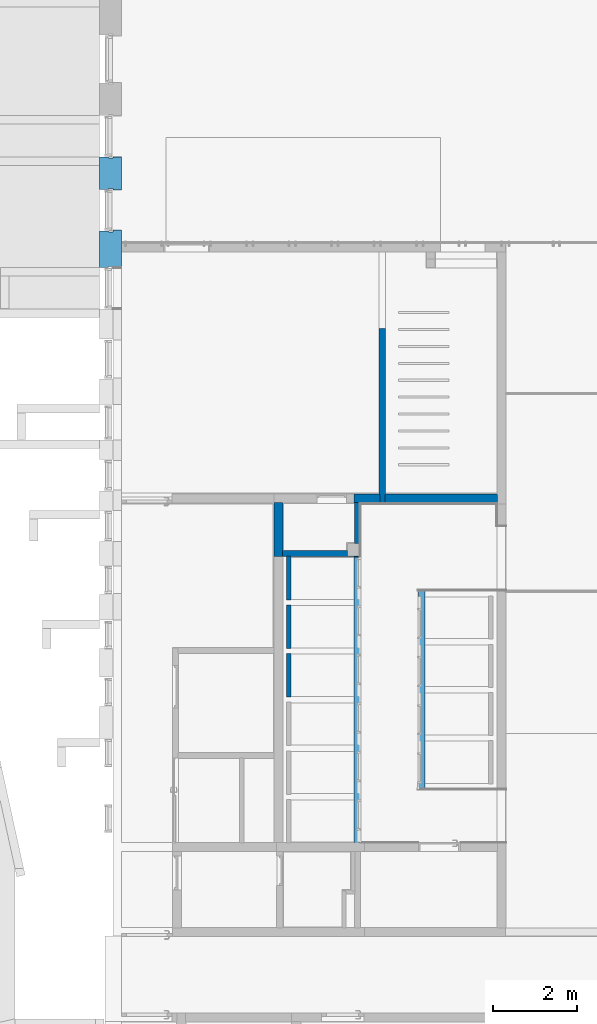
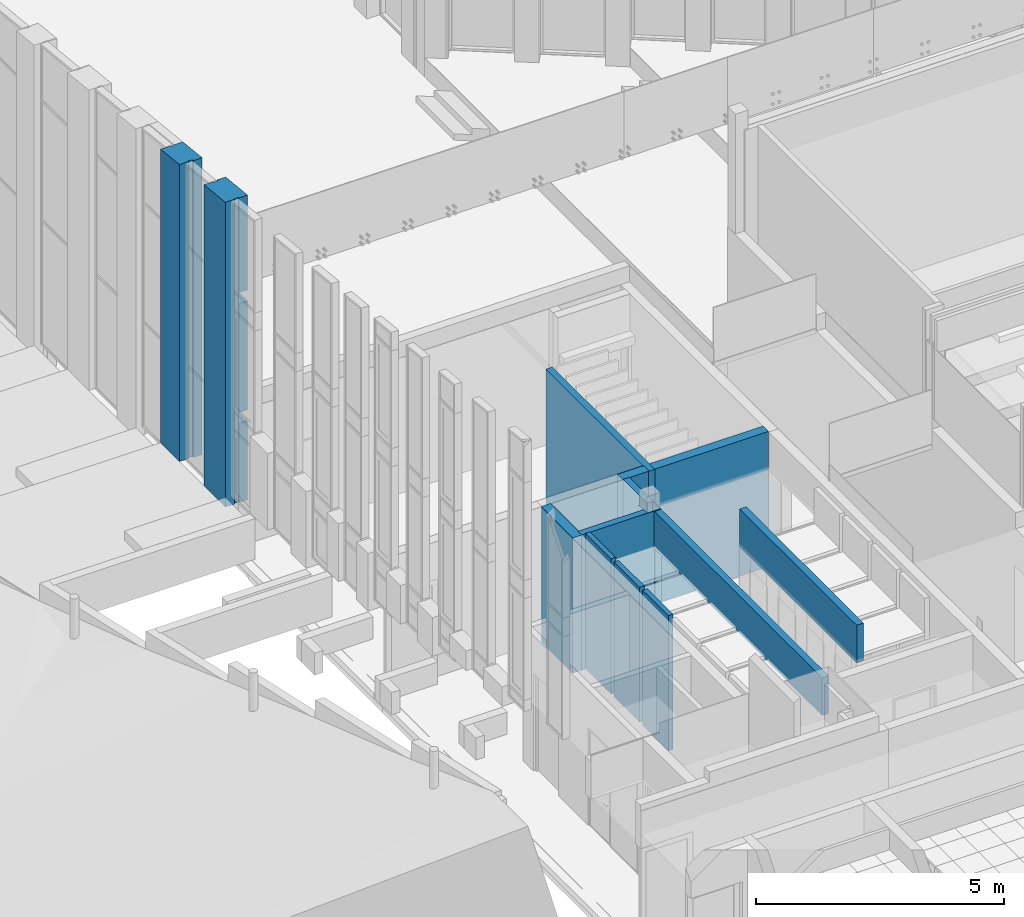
# One storey, part 119 of 246: 11 walls, 1 opening.
"""IFC2X3 building model written with IfcOpenShell, lengths in millimetres."""

from ifc_helpers import new_model, entity, si_unit, converted_unit, derived_unit, money_unit, direction, frame, origin_with_axes, place, context, subcontext, project, spatial, faceted_brep, material, material_list, type_object, element, save


model = new_model("IFC2X3")

# Units and contexts
model_context = context("Model", 3, precision=0.01, world=origin_with_axes(), true_north=direction((0.0, 1.0)))
body_context = subcontext(model_context, "Body", "Model", "MODEL_VIEW")
ifc_project = project(units=[si_unit("LENGTHUNIT", "METRE", prefix="MILLI"), si_unit("AREAUNIT", "SQUARE_METRE"), si_unit("VOLUMEUNIT", "CUBIC_METRE"), converted_unit("PLANEANGLEUNIT", "DEGREE", entity("IfcPlaneAngleMeasure", 0.0174532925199), si_unit("PLANEANGLEUNIT", "RADIAN"), dimensions=[0, 0, 0, 0, 0, 0, 0]), si_unit("SOLIDANGLEUNIT", "STERADIAN"), money_unit("EUR"), converted_unit("TIMEUNIT", "Year", entity("IfcTimeMeasure", 31556926.0), si_unit("TIMEUNIT", "SECOND"), dimensions=[0, 0, 1, 0, 0, 0, 0]), si_unit("MASSUNIT", "GRAM", prefix="KILO"), si_unit("THERMODYNAMICTEMPERATUREUNIT", "DEGREE_CELSIUS"), si_unit("LUMINOUSINTENSITYUNIT", "LUMEN"), si_unit("ENERGYUNIT", "JOULE", prefix="MEGA"), derived_unit("THERMALCONDUCTANCEUNIT", [(si_unit("POWERUNIT", "WATT"), 1), (si_unit("LENGTHUNIT", "METRE"), -1), (si_unit("THERMODYNAMICTEMPERATUREUNIT", "KELVIN"), -1)]), derived_unit("SPECIFICHEATCAPACITYUNIT", [(si_unit("ENERGYUNIT", "JOULE"), 1), (si_unit("MASSUNIT", "GRAM", prefix="KILO"), -1), (si_unit("THERMODYNAMICTEMPERATUREUNIT", "KELVIN"), -1)]), derived_unit("MASSDENSITYUNIT", [(si_unit("MASSUNIT", "GRAM", prefix="KILO"), 1), (si_unit("VOLUMEUNIT", "CUBIC_METRE"), -1)])], contexts=[model_context])

# Site, building, storey
site_placement = place(None, origin_with_axes())
site = spatial("IfcSite", under=ifc_project, at=site_placement, Name="L.Koidula tn 11b", CompositionType="ELEMENT")
building_placement = place(site_placement, origin_with_axes())
building = spatial("IfcBuilding", under=site, at=building_placement, Name="Rakvere Riigigümnaasium", CompositionType="ELEMENT")
storey_placement = place(building_placement, origin_with_axes())
storey = spatial("IfcBuildingStorey", under=building, at=storey_placement, Name="1.korrus 0,00", CompositionType="ELEMENT", Elevation=0.0)

# Walls
ifc_material_1 = material(Name="Kipsplaat")
ifc_material_2 = material(Name="mineraalvill+karkass")
ifc_material_list_1 = material_list([ifc_material_1, ifc_material_1, ifc_material_2, ifc_material_1, ifc_material_1])
wall_type_1 = type_object("IfcWallType", Name="SS-07 155", PredefinedType="NOTDEFINED")
wall_1_placement = place(storey_placement, frame((41128.0073165, 17110.4555123, 2400.0), z_axis=(0.0, 0.0, 1.0), x_axis=(0.0, 1.0, 0.0)))
element("IfcWall", 1, at=wall_1_placement, inside=storey, type_object=wall_type_1, material=ifc_material_list_1, Name="Sisesein", context=body_context, shape_type="Brep", body=[
    faceted_brep([(6990.00003493, 110.0, 0.0), (6990.00003493, 110.0, 925.0), (210.0, 110.0, 925.0), (210.0, 110.0, 0.0), (6990.00003493, 125.0, 925.0), (6990.00003493, 125.0, 0.0), (210.0, 125.0, 925.0), (210.0, 125.0, 0.0)], [[[0, 1, 2, 3]], [[4, 1, 0, 5]], [[1, 4, 6, 2]], [[3, 2, 6, 7]], [[5, 0, 3, 7]], [[4, 5, 7, 6]]]),
    faceted_brep([(6990.00003493, 95.0, 0.0), (6990.00003493, 95.0, 925.0), (210.0, 95.0, 925.0), (210.0, 95.0, 0.0), (6990.00003493, 110.0, 925.0), (6990.00003493, 110.0, 0.0), (210.0, 110.0, 925.0), (210.0, 110.0, 0.0)], [[[0, 1, 2, 3]], [[4, 1, 0, 5]], [[1, 4, 6, 2]], [[3, 2, 6, 7]], [[5, 0, 3, 7]], [[4, 5, 7, 6]]]),
    faceted_brep([(6990.00003493, 0.0, 0.0), (6990.00003493, 0.0, 925.0), (200.0, 0.0, 925.0), (200.0, 0.0, 0.0), (6990.00003493, 95.0, 925.0), (6990.00003493, 95.0, 0.0), (200.0, 95.0, 925.0), (200.0, 95.0, 0.0)], [[[0, 1, 2, 3]], [[4, 1, 0, 5]], [[1, 4, 6, 2]], [[3, 2, 6, 7]], [[5, 0, 3, 7]], [[4, 5, 7, 6]]]),
    faceted_brep([(6990.00003493, -15.0, 0.0), (6990.00003493, -15.0, 925.0), (210.0, -15.0, 925.0), (210.0, -15.0, 0.0), (6990.00003493, 0.0, 925.0), (6990.00003493, 0.0, 0.0), (210.0, 0.0, 925.0), (210.0, 0.0, 0.0)], [[[0, 1, 2, 3]], [[4, 1, 0, 5]], [[1, 4, 6, 2]], [[3, 2, 6, 7]], [[5, 0, 3, 7]], [[4, 5, 7, 6]]]),
    faceted_brep([(7080.00003493, -21.9936656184, 0.0), (7080.00003493, -21.9936656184, 925.0), (7080.00003493, -30.0, 925.0), (7080.00003493, -30.0, 0.0), (6990.00003493, -21.9936656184, 925.0), (6990.00003493, -21.9936656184, 0.0), (6990.00003493, -15.0, 925.0), (210.0, -15.0, 925.0), (210.0, -30.0, 925.0), (210.0, -30.0, 0.0), (210.0, -15.0, 0.0), (6990.00003493, -15.0, 0.0)], [[[0, 1, 2, 3]], [[4, 1, 0, 5]], [[4, 6, 7, 8, 2, 1]], [[3, 2, 8, 9]], [[5, 0, 3, 9, 10, 11]], [[6, 4, 5, 11]], [[6, 11, 10, 7]], [[9, 8, 7, 10]]]),
])
wall_2_placement = place(storey_placement, frame((42686.9999626, 18570.4555123, 2400.0), z_axis=(0.0, 0.0, 1.0), x_axis=(0.0, 1.0, 0.0)))
element("IfcWall", 2, at=wall_2_placement, inside=storey, type_object=wall_type_1, material=ifc_material_list_1, Name="Sisesein", context=body_context, shape_type="Brep", body=[
    faceted_brep([(4720.01583998, 155.0, 925.0), (4720.01583998, 140.0, 925.0), (4720.01583998, 140.0, 0.0), (4720.01583998, 155.0, 0.0), (0.0, 140.0, 925.0), (0.0, 155.0, 925.0), (0.0, 140.0, 0.0), (0.0, 155.0, 0.0)], [[[0, 1, 2, 3]], [[4, 1, 0, 5]], [[1, 4, 6, 2]], [[7, 3, 2, 6]], [[5, 0, 3, 7]], [[4, 5, 7, 6]]]),
    faceted_brep([(4720.01583998, 140.0, 925.0), (4720.01583998, 125.0, 925.0), (4720.01583998, 125.0, 0.0), (4720.01583998, 140.0, 0.0), (0.0, 125.0, 925.0), (0.0, 140.0, 925.0), (0.0, 125.0, 0.0), (0.0, 140.0, 0.0)], [[[0, 1, 2, 3]], [[4, 1, 0, 5]], [[1, 4, 6, 2]], [[7, 3, 2, 6]], [[5, 0, 3, 7]], [[4, 5, 7, 6]]]),
    faceted_brep([(4720.01583998, 125.0, 925.0), (4720.01583998, 30.0, 925.0), (4720.01583998, 30.0, 0.0), (4720.01583998, 125.0, 0.0), (0.0, 30.0, 925.0), (0.0, 125.0, 925.0), (0.0, 30.0, 0.0), (0.0, 125.0, 0.0)], [[[0, 1, 2, 3]], [[4, 1, 0, 5]], [[1, 4, 6, 2]], [[7, 3, 2, 6]], [[5, 0, 3, 7]], [[4, 5, 7, 6]]]),
    faceted_brep([(4720.01583998, 30.0, 925.0), (4720.01583998, 15.0, 925.0), (4720.01583998, 15.0, 0.0), (4720.01583998, 30.0, 0.0), (0.0, 15.0, 925.0), (0.0, 30.0, 925.0), (0.0, 15.0, 0.0), (0.0, 30.0, 0.0)], [[[0, 1, 2, 3]], [[4, 1, 0, 5]], [[1, 4, 6, 2]], [[7, 3, 2, 6]], [[5, 0, 3, 7]], [[4, 5, 7, 6]]]),
    faceted_brep([(4720.01583998, 15.0, 925.0), (4720.01583998, 0.0, 925.0), (4720.01583998, 0.0, 0.0), (4720.01583998, 15.0, 0.0), (0.0, 0.0, 925.0), (0.0, 15.0, 925.0), (0.0, 0.0, 0.0), (0.0, 15.0, 0.0)], [[[0, 1, 2, 3]], [[4, 1, 0, 5]], [[1, 4, 6, 2]], [[7, 3, 2, 6]], [[5, 0, 3, 7]], [[4, 5, 7, 6]]]),
])
ifc_material_3 = material(Name="Krohv")
ifc_material_4 = material(Name="Silikaat plokk")
ifc_material_list_2 = material_list([ifc_material_3, ifc_material_4, ifc_material_3])
wall_type_2 = type_object("IfcWallType", Name="SS-10 220", PredefinedType="NOTDEFINED")
wall_3_placement = place(storey_placement, frame((44599.9999911, 25360.4516763, 0.0), z_axis=(0.0, 0.0, 1.0), x_axis=(-1.0, 0.0, 0.0)))
element("IfcWall", 3, at=wall_3_placement, inside=storey, type_object=wall_type_2, material=ifc_material_list_2, Name="Sisesein", context=body_context, shape_type="Brep", body=[
    faceted_brep([(3589.99267458, 0.0, 3325.0), (3584.99267458, 0.0, 3325.0), (3584.99267458, 0.0, 0.0), (3589.99267458, 0.0, 0.0), (3584.99267458, 10.0, 3325.0), (3589.99267458, 10.0, 3325.0), (3584.99267458, 10.0, 0.0), (3589.99267458, 10.0, 0.0)], [[[0, 1, 2, 3]], [[4, 1, 0, 5]], [[1, 4, 6, 2]], [[6, 7, 3, 2]], [[5, 0, 3, 7]], [[4, 5, 7, 6]]]),
    faceted_brep([(2844.99989365, 0.0, 3325.0), (210.0, 0.0, 3325.0), (210.0, 0.0, 0.0), (2844.99989365, 0.0, 0.0), (210.0, 10.0, 3325.0), (2844.99989365, 10.0, 3325.0), (210.0, 10.0, 0.0), (2844.99989365, 10.0, 0.0)], [[[0, 1, 2, 3]], [[4, 1, 0, 5]], [[1, 4, 6, 2]], [[7, 3, 2, 6]], [[5, 0, 3, 7]], [[4, 5, 7, 6]]]),
    faceted_brep([(3434.99267458, 0.0, 3325.0), (2994.99989365, 0.0, 3325.0), (2994.99989365, 0.0, 0.0), (3434.99267458, 0.0, 0.0), (2994.99989365, 10.0, 3325.0), (3434.99267458, 10.0, 3325.0), (2994.99989365, 10.0, 0.0), (3434.99267458, 10.0, 0.0)], [[[0, 1, 2, 3]], [[4, 1, 0, 5]], [[1, 4, 6, 2]], [[7, 3, 2, 6]], [[5, 0, 3, 7]], [[4, 5, 7, 6]]]),
    faceted_brep([(2859.99989365, -200.0, 3325.0), (200.0, -200.0, 3325.0), (200.0, -200.0, 0.0), (2859.99989365, -200.0, 0.0), (200.0, 0.0, 3325.0), (2859.99989365, 0.0, 3325.0), (200.0, 0.0, 0.0), (2859.99989365, 0.0, 0.0)], [[[0, 1, 2, 3]], [[4, 1, 0, 5]], [[1, 4, 6, 2]], [[7, 3, 2, 6]], [[5, 0, 3, 7]], [[4, 5, 7, 6]]]),
    faceted_brep([(3589.99267458, -200.0, 3325.0), (2979.99989365, -200.0, 3325.0), (2979.99989365, -200.0, 0.0), (3589.99267458, -200.0, 0.0), (2979.99989365, 0.0, 3325.0), (3589.99267458, 0.0, 3325.0), (2979.99989365, 0.0, 0.0), (3589.99267458, 0.0, 0.0)], [[[0, 1, 2, 3]], [[4, 1, 0, 5]], [[1, 4, 6, 2]], [[6, 7, 3, 2]], [[5, 0, 3, 7]], [[4, 5, 7, 6]]]),
    faceted_brep([(2844.99989365, -210.0, 3325.0), (210.0, -210.0, 3325.0), (210.0, -210.0, 0.0), (2844.99989365, -210.0, 0.0), (210.0, -200.0, 3325.0), (2844.99989365, -200.0, 3325.0), (210.0, -200.0, 0.0), (2844.99989365, -200.0, 0.0)], [[[0, 1, 2, 3]], [[4, 1, 0, 5]], [[1, 4, 6, 2]], [[7, 3, 2, 6]], [[5, 0, 3, 7]], [[4, 5, 7, 6]]]),
    faceted_brep([(3589.99267458, -210.0, 3325.0), (2994.99989365, -210.0, 3325.0), (2994.99989365, -210.0, 0.0), (3589.99267458, -210.0, 0.0), (2994.99989365, -200.0, 3325.0), (3589.99267458, -200.0, 3325.0), (2994.99989365, -200.0, 0.0), (3589.99267458, -200.0, 0.0)], [[[0, 1, 2, 3]], [[4, 1, 0, 5]], [[1, 4, 6, 2]], [[6, 7, 3, 2]], [[5, 0, 3, 7]], [[4, 5, 7, 6]]]),
])
wall_4_placement = place(storey_placement, frame((39320.0072856, 24085.4555472, 0.0), z_axis=(0.0, 0.0, 1.0), x_axis=(0.0, 1.0, 0.0)))
element("IfcWall", 4, at=wall_4_placement, inside=storey, type_object=wall_type_2, material=ifc_material_list_2, Name="Sisesein", context=body_context, shape_type="Brep", body=[
    faceted_brep([(1264.99612905, 210.0, 3325.0), (1264.99612905, 200.0, 3325.0), (1264.99612905, 200.0, 0.0), (1264.99612905, 210.0, 0.0), (0.0, 200.0, 3325.0), (0.0, 210.0, 3325.0), (0.0, 200.0, 0.0), (0.0, 210.0, 0.0)], [[[0, 1, 2, 3]], [[4, 1, 0, 5]], [[1, 4, 6, 2]], [[3, 2, 6, 7]], [[5, 0, 3, 7]], [[4, 5, 7, 6]]]),
    faceted_brep([(1274.99612905, 200.0, 3325.0), (1274.99612905, 0.0, 3325.0), (1274.99612905, 0.0, 0.0), (1274.99612905, 200.0, 0.0), (0.0, 0.0, 3325.0), (0.0, 200.0, 3325.0), (0.0, 0.0, 0.0), (0.0, 200.0, 0.0)], [[[0, 1, 2, 3]], [[4, 1, 0, 5]], [[1, 4, 6, 2]], [[3, 2, 6, 7]], [[5, 0, 3, 7]], [[4, 5, 7, 6]]]),
    faceted_brep([(1264.99612905, 0.0, 3325.0), (1264.99612905, -10.0, 3325.0), (1264.99612905, -10.0, 0.0), (1264.99612905, 0.0, 0.0), (150.0, -10.0, 3325.0), (150.0, 0.0, 3325.0), (150.0, -10.0, 0.0), (150.0, 0.0, 0.0)], [[[0, 1, 2, 3]], [[4, 1, 0, 5]], [[1, 4, 6, 2]], [[3, 2, 6, 7]], [[5, 0, 3, 7]], [[4, 5, 7, 6]]]),
])
ifc_material_5 = material(Name="Keraamiline plaat")
ifc_material_list_3 = material_list([ifc_material_5, ifc_material_4, ifc_material_5])
wall_type_3 = type_object("IfcWallType", Name="SS-05-1 150", PredefinedType="NOTDEFINED")
wall_5_placement = place(storey_placement, frame((41150.0073165, 24220.4555472, 0.0), z_axis=(0.0, 0.0, 1.0), x_axis=(-1.0, 0.0, 0.0)))
element("IfcWall", 5, at=wall_5_placement, inside=storey, type_object=wall_type_3, material=ifc_material_list_3, Name="Sisesein", context=body_context, shape_type="Brep", body=[
    faceted_brep([(1645.00728061, 120.0, 0.0), (1645.00728061, 120.0, 3325.0), (135.0, 120.0, 3325.0), (135.0, 120.0, 0.0), (1645.00728061, 135.0, 0.0), (1645.00728061, 135.0, 3325.0), (135.0, 135.0, 3325.0), (135.0, 135.0, 0.0)], [[[0, 1, 2, 3]], [[4, 5, 1, 0]], [[5, 6, 2, 1]], [[3, 2, 6, 7]], [[7, 4, 0, 3]], [[7, 6, 5, 4]]]),
    faceted_brep([(1830.00003091, 120.0, 3325.0), (1736.50728061, 120.0, 3325.0), (1736.50728061, 120.0, 0.0), (1830.00003091, 120.0, 0.0), (1736.50728061, 135.0, 3325.0), (1830.00003091, 135.0, 3325.0), (1736.50728061, 135.0, 0.0), (1830.00003091, 135.0, 0.0)], [[[0, 1, 2, 3]], [[4, 1, 0, 5]], [[1, 4, 6, 2]], [[7, 3, 2, 6]], [[5, 0, 3, 7]], [[4, 5, 7, 6]]]),
    faceted_brep([(300.006334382, 120.0, 3325.0), (300.006334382, 0.0, 3325.0), (1830.00003091, 0.0, 3325.0), (1830.00003091, 120.0, 3325.0), (300.006334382, 0.0, 0.0), (300.006334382, 120.0, 0.0), (1830.00003091, 0.0, 0.0), (1830.00003091, 120.0, 0.0)], [[[0, 1, 2, 3]], [[4, 1, 0, 5]], [[1, 4, 6, 2]], [[7, 3, 2, 6]], [[5, 0, 3, 7]], [[4, 5, 7, 6]]]),
    faceted_brep([(300.006334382, 0.0, 3325.0), (300.006334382, -15.0, 3325.0), (1830.00003091, -15.0, 3325.0), (1830.00003091, 0.0, 3325.0), (300.006334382, -15.0, 0.0), (300.006334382, 0.0, 0.0), (1830.00003091, -15.0, 0.0), (1830.00003091, 0.0, 0.0)], [[[0, 1, 2, 3]], [[4, 1, 0, 5]], [[1, 4, 6, 2]], [[7, 3, 2, 6]], [[5, 0, 3, 7]], [[4, 5, 7, 6]]]),
])
wall_6_placement = place(storey_placement, frame((41150.0073165, 24070.4555472, 0.0), z_axis=(0.0, 0.0, 1.0), x_axis=(0.0, 1.0, 0.0)))
element("IfcWall", 6, at=wall_6_placement, inside=storey, type_object=wall_type_3, material=ifc_material_list_3, Name="Sisesein", context=body_context, shape_type="Brep", body=[
    faceted_brep([(30.0, 135.0, 0.0), (30.0, 135.0, 3325.0), (30.0, 120.0, 3325.0), (30.0, 120.0, 0.0), (0.0, 135.0, 0.0), (0.0, 135.0, 3325.0), (0.0, 120.0, 3325.0), (0.0, 120.0, 0.0)], [[[0, 1, 2, 3]], [[4, 5, 1, 0]], [[5, 6, 2, 1]], [[3, 2, 6, 7]], [[4, 0, 3, 7]], [[7, 6, 5, 4]]]),
    faceted_brep([(330.0, 135.0, 3325.0), (330.0, 120.0, 3325.0), (1289.99612905, 120.0, 3325.0), (1289.99612905, 135.0, 3325.0), (330.0, 120.0, 0.0), (330.0, 135.0, 0.0), (1289.99612905, 120.0, 0.0), (1289.99612905, 135.0, 0.0)], [[[0, 1, 2, 3]], [[4, 1, 0, 5]], [[1, 4, 6, 2]], [[7, 3, 2, 6]], [[5, 0, 3, 7]], [[4, 5, 7, 6]]]),
    faceted_brep([(30.0, 0.00633438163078, 0.0), (30.0, 0.00633438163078, 3325.0), (0.0, 0.0, 3325.0), (0.0, 0.0, 0.0), (30.0, 120.0, 3325.0), (30.0, 120.0, 0.0), (0.0, 120.0, 3325.0), (0.0, 120.0, 0.0)], [[[0, 1, 2, 3]], [[4, 1, 0, 5]], [[1, 4, 6, 2]], [[3, 2, 6, 7]], [[5, 0, 3, 7]], [[4, 5, 7, 6]]]),
    faceted_brep([(330.0, 120.0, 3325.0), (330.0, 0.00633438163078, 3325.0), (1289.99612905, 0.0, 3325.0), (1289.99612905, 120.0, 3325.0), (330.0, 0.00633438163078, 0.0), (330.0, 120.0, 0.0), (1289.99612905, 0.0, 0.0), (1289.99612905, 120.0, 0.0)], [[[0, 1, 2, 3]], [[4, 1, 0, 5]], [[1, 4, 6, 2]], [[7, 3, 2, 6]], [[5, 0, 3, 7]], [[4, 5, 7, 6]]]),
    faceted_brep([(1289.99612905, 0.0, 0.0), (1289.99612905, 0.0, 3325.0), (1289.99612905, -15.0, 3325.0), (1289.99612905, -15.0, 0.0), (0.0, 0.0, 0.0), (0.0, 0.0, 3325.0), (0.0, -15.0, 3325.0), (0.0, -15.0, 0.0)], [[[0, 1, 2, 3]], [[4, 5, 1, 0]], [[5, 6, 2, 1]], [[3, 2, 6, 7]], [[4, 0, 3, 7]], [[7, 6, 5, 4]]]),
])
wall_7_placement = place(storey_placement, frame((41605.0000975, 29490.4516763, 0.0), z_axis=(0.0, 0.0, 1.0), x_axis=(0.0, -1.0, 0.0)))
element("IfcWall", 7, at=wall_7_placement, inside=storey, type_object=wall_type_3, material=ifc_material_list_3, Name="Sisesein", context=body_context, shape_type="Brep", body=[
    faceted_brep([(4130.0, 135.0, 3325.0), (4130.0, 150.0, 3325.0), (4130.0, 150.0, 0.0), (4130.0, 135.0, 0.0), (4145.0, 150.0, 3325.0), (4145.0, 135.0, 3325.0), (4145.0, 150.0, 0.0), (4145.0, 135.0, 0.0)], [[[0, 1, 2, 3]], [[4, 1, 0, 5]], [[1, 4, 6, 2]], [[2, 6, 7, 3]], [[5, 0, 3, 7]], [[4, 5, 7, 6]]]),
    faceted_brep([(0.0, 135.0, 3325.0), (0.0, 150.0, 3325.0), (0.0, 150.0, 0.0), (0.0, 135.0, 0.0), (3930.0, 150.0, 3325.0), (3930.0, 135.0, 3325.0), (3930.0, 150.0, 0.0), (3930.0, 135.0, 0.0)], [[[0, 1, 2, 3]], [[4, 1, 0, 5]], [[1, 4, 6, 2]], [[6, 7, 3, 2]], [[5, 0, 3, 7]], [[4, 5, 7, 6]]]),
    faceted_brep([(0.0, 15.0, 3325.0), (0.0, 135.0, 3325.0), (0.0, 135.0, 0.0), (0.0, 15.0, 0.0), (4145.0, 135.0, 3325.0), (4145.0, 15.0, 3325.0), (4145.0, 135.0, 0.0), (4145.0, 15.0, 0.0)], [[[0, 1, 2, 3]], [[4, 1, 0, 5]], [[1, 4, 6, 2]], [[2, 6, 7, 3]], [[5, 0, 3, 7]], [[4, 5, 7, 6]]]),
    faceted_brep([(4130.0, 0.0, 3325.0), (4130.0, 15.0, 3325.0), (4130.0, 15.0, 0.0), (4130.0, 0.0, 0.0), (4145.0, 15.0, 3325.0), (4145.0, 0.0, 3325.0), (4145.0, 15.0, 0.0), (4145.0, 0.0, 0.0)], [[[0, 1, 2, 3]], [[4, 1, 0, 5]], [[1, 4, 6, 2]], [[2, 6, 7, 3]], [[5, 0, 3, 7]], [[4, 5, 7, 6]]]),
    faceted_brep([(0.0, 0.0, 3325.0), (0.0, 15.0, 3325.0), (0.0, 15.0, 0.0), (0.0, 0.0, 0.0), (3930.0, 15.0, 3325.0), (3930.0, 0.0, 3325.0), (3930.0, 15.0, 0.0), (3930.0, 0.0, 0.0)], [[[0, 1, 2, 3]], [[4, 1, 0, 5]], [[1, 4, 6, 2]], [[6, 7, 3, 2]], [[5, 0, 3, 7]], [[4, 5, 7, 6]]]),
])

# Wall, opening
ifc_material_6 = material(Name="Betoon element / plaat")
ifc_material_7 = material(Name="FF-PIR soojustus")
ifc_material_8 = material(Name="Tuuletõke (RKL Facade)")
ifc_material_9 = material(Name="Salto-roovitus")
ifc_material_10 = material(Name="Puit-fassaad")
ifc_material_list_4 = material_list([ifc_material_6, ifc_material_7, ifc_material_8, ifc_material_9, ifc_material_9, ifc_material_10])
wall_type_4 = type_object("IfcWallType", Name="VS-03 514", PredefinedType="NOTDEFINED")
wall_8_placement = place(storey_placement, frame((35500.0000521, 33540.4555253, 1375.0), z_axis=(0.0, 0.0, 1.0), x_axis=(0.0, -1.0, 0.0)))
wall_8 = element("IfcWall", 8, at=wall_8_placement, inside=storey, type_object=wall_type_4, material=ifc_material_list_4, Name="Välissein", context=body_context, shape_type="Brep", body=[
    faceted_brep([(739.999920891, -200.0, 7296.60325204), (759.999920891, -200.0, 7298.70533674), (779.999920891, -200.0, 7300.80742145), (779.999920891, 0.0, 7300.80742145), (0.0, 0.0, 7218.82612625), (0.0, -200.0, 7218.82612625), (20.1144448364, -200.0, 7220.9402396), (20.1144448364, -300.000052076, 7220.9402396), (739.999920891, -300.000052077, 7296.60325204), (739.999920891, -200.0, 0.0), (759.999920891, -200.0, 0.0), (779.999920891, -200.0, 0.0), (779.999920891, 0.0, 0.0), (0.0, 0.0, 0.0), (0.0, -200.0, 0.0), (20.1144448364, -200.0, 0.0), (20.1144448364, -300.00000833, 0.0), (739.999920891, -300.000008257, 0.0)], [[[0, 1, 2, 3, 4, 5, 6, 7, 8]], [[1, 0, 9, 10, 11, 2]], [[11, 12, 3, 2]], [[12, 13, 4, 3]], [[13, 14, 5, 4]], [[15, 6, 5, 14]], [[16, 7, 6, 15]], [[17, 8, 7, 16]], [[0, 8, 17, 9]], [[9, 17, 16, 15, 14, 13, 12, 11, 10]]]),
    faceted_brep([(2590.0, -200.0, 7491.04609559), (2610.0, -200.0, 7493.1481803), (2610.0, 0.0, 7493.1481803), (1729.99992089, 0.0, 7400.65644495), (1729.99992089, -200.0, 7400.65644495), (1769.99992089, -200.0, 7404.86061436), (1769.99992089, -300.000052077, 7404.86061436), (2590.0, -300.0, 7491.04609559), (2590.0, -200.0, 5160.0), (2610.0, -200.0, 5160.0), (2610.0, 0.0, 5160.0), (2610.0, 0.0, 0.0), (1729.99992089, 0.0, 0.0), (2039.95444922, 0.0, 5160.0), (2039.95444922, 0.0, 4895.0), (2610.0, 0.0, 4895.0), (2610.0, 0.0, 2215.0), (2240.00001421, 0.0, 2215.0), (2240.00001421, 0.0, 1950.0), (2610.0, 0.0, 1950.0), (1729.99992089, -200.0, 0.0), (1769.99992089, -200.0, 0.0), (1769.99992089, -300.000008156, 0.0), (2590.0, -300.0, 0.0), (2590.0, -200.0, 0.0), (2590.0, -200.0, 1950.0), (2590.0, -200.0, 2215.0), (2590.0, -200.0, 4895.0), (2039.95367572, -200.000052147, 5160.0), (2610.0, -200.0, 0.0), (2039.95367572, -200.000052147, 4895.0), (2610.0, -200.0, 4895.0), (2610.0, -200.0, 2215.0), (2239.99993167, -200.000052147, 2215.0), (2239.99993167, -200.000052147, 1950.0), (2610.0, -200.0, 1950.0)], [[[0, 1, 2, 3, 4, 5, 6, 7]], [[1, 0, 8, 9]], [[1, 9, 10, 2]], [[11, 12, 3, 2, 10, 13, 14, 15, 16, 17, 18, 19]], [[12, 20, 4, 3]], [[21, 5, 4, 20]], [[22, 6, 5, 21]], [[23, 7, 6, 22]], [[0, 7, 23, 24, 25, 26, 27, 8]], [[9, 8, 28, 13, 10]], [[24, 23, 22, 21, 20, 12, 11, 29]], [[13, 28, 30, 14]], [[27, 31, 15, 14, 30]], [[31, 32, 16, 15]], [[32, 26, 33, 17, 16]], [[17, 33, 34, 18]], [[25, 35, 19, 18, 34]], [[35, 29, 11, 19]], [[35, 25, 24, 29]], [[26, 25, 34, 33]], [[31, 27, 26, 32]], [[8, 27, 30, 28]]]),
    faceted_brep([(0.0, -300.0, 0.0), (0.0, -380.0, 0.0), (0.0, -380.0, 7218.82612625), (0.0, -300.0, 7218.82612625), (759.999920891, -300.0, 0.0), (759.999920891, -380.0, 0.0), (759.999920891, -380.0, 7298.70533674), (759.999920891, -300.0, 7298.70533674)], [[[0, 1, 2, 3]], [[0, 4, 5, 1]], [[1, 5, 6, 2]], [[2, 6, 7, 3]], [[4, 0, 3, 7]], [[5, 4, 7, 6]]]),
    faceted_brep([(1749.99992089, -300.0, 0.0), (1749.99992089, -380.0, 0.0), (1749.99992089, -380.0, 7402.75852965), (1749.99992089, -300.0, 7402.75852965), (2610.0, -380.0, 0.0), (2610.0, -300.0, 0.0), (2610.0, -380.0, 7493.1481803), (2610.0, -300.0, 7493.1481803)], [[[0, 1, 2, 3]], [[4, 1, 0, 5]], [[1, 4, 6, 2]], [[2, 6, 7, 3]], [[5, 0, 3, 7]], [[4, 5, 7, 6]]]),
    faceted_brep([(1749.99992089, -430.0, 7402.75852965), (1749.99992089, -380.0, 7402.75852965), (1749.99992089, -380.0, 0.0), (1749.99992089, -430.0, 0.0), (2610.0, -380.0, 7493.1481803), (2610.0, -430.0, 7493.1481803), (2610.0, -380.0, 0.0), (2610.0, -430.0, 0.0)], [[[0, 1, 2, 3]], [[4, 1, 0, 5]], [[1, 4, 6, 2]], [[7, 3, 2, 6]], [[5, 0, 3, 7]], [[4, 5, 7, 6]]]),
    faceted_brep([(0.0, -430.0, 7218.82612625), (0.0, -380.0, 7218.82612625), (0.0, -380.0, 0.0), (0.0, -430.0, 0.0), (759.999920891, -380.0, 7298.70533674), (759.999920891, -430.0, 7298.70533674), (759.999920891, -380.0, 0.0), (759.999920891, -430.0, 0.0)], [[[0, 1, 2, 3]], [[4, 1, 0, 5]], [[1, 4, 6, 2]], [[2, 6, 7, 3]], [[5, 0, 3, 7]], [[4, 5, 7, 6]]]),
    faceted_brep([(1749.99992089, -462.0, 7402.75852965), (1749.99992089, -430.0, 7402.75852965), (1749.99992089, -430.0, 0.0), (1749.99992089, -462.0, 0.0), (2610.0, -430.0, 7493.1481803), (2610.0, -462.0, 7493.1481803), (2610.0, -430.0, 0.0), (2610.0, -462.0, 0.0)], [[[0, 1, 2, 3]], [[4, 1, 0, 5]], [[1, 4, 6, 2]], [[7, 3, 2, 6]], [[5, 0, 3, 7]], [[4, 5, 7, 6]]]),
    faceted_brep([(0.0, -462.0, 7218.82612625), (0.0, -430.0, 7218.82612625), (0.0, -430.0, 0.0), (0.0, -462.0, 0.0), (759.999920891, -430.0, 7298.70533674), (759.999920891, -462.0, 7298.70533674), (759.999920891, -430.0, 0.0), (759.999920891, -462.0, 0.0)], [[[0, 1, 2, 3]], [[4, 1, 0, 5]], [[1, 4, 6, 2]], [[2, 6, 7, 3]], [[5, 0, 3, 7]], [[4, 5, 7, 6]]]),
    faceted_brep([(1749.99992089, -494.0, 7402.75852965), (1749.99992089, -462.0, 7402.75852965), (1749.99992089, -462.0, 0.0), (1749.99992089, -494.0, 0.0), (2610.0, -462.0, 7493.1481803), (2610.0, -494.0, 7493.1481803), (2610.0, -462.0, 0.0), (2610.0, -494.0, 0.0)], [[[0, 1, 2, 3]], [[4, 1, 0, 5]], [[1, 4, 6, 2]], [[7, 3, 2, 6]], [[5, 0, 3, 7]], [[4, 5, 7, 6]]]),
    faceted_brep([(0.0, -494.0, 7218.82612625), (0.0, -462.0, 7218.82612625), (0.0, -462.0, 0.0), (0.0, -494.0, 0.0), (759.999920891, -462.0, 7298.70533674), (759.999920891, -494.0, 7298.70533674), (759.999920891, -462.0, 0.0), (759.999920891, -494.0, 0.0)], [[[0, 1, 2, 3]], [[4, 1, 0, 5]], [[1, 4, 6, 2]], [[2, 6, 7, 3]], [[5, 0, 3, 7]], [[4, 5, 7, 6]]]),
    faceted_brep([(1749.99992089, -514.0, 7402.75852965), (1749.99992089, -494.0, 7402.75852965), (1749.99992089, -494.0, 0.0), (1749.99992089, -514.0, 0.0), (2610.0, -494.0, 7493.1481803), (2610.0, -514.0, 7493.1481803), (2610.0, -494.0, 0.0), (2610.0, -514.0, 0.0)], [[[0, 1, 2, 3]], [[4, 1, 0, 5]], [[1, 4, 6, 2]], [[7, 3, 2, 6]], [[5, 0, 3, 7]], [[4, 5, 7, 6]]]),
    faceted_brep([(0.0, -514.0, 7218.82612625), (0.0, -494.0, 7218.82612625), (0.0, -494.0, 0.0), (0.0, -514.0, 0.0), (759.999920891, -494.0, 7298.70533674), (759.999920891, -514.0, 7298.70533674), (759.999920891, -494.0, 0.0), (759.999920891, -514.0, 0.0)], [[[0, 1, 2, 3]], [[4, 1, 0, 5]], [[1, 4, 6, 2]], [[2, 6, 7, 3]], [[5, 0, 3, 7]], [[4, 5, 7, 6]]]),
])
opening_placement = place(wall_8_placement, frame((1254.99992089, 0.0, 0.0), z_axis=(0.0, 0.0, 1.0), x_axis=(1.0, 0.0, 0.0)))
element("IfcOpeningElement", 9, at=opening_placement, cuts=wall_8, Name="Ava", context=body_context, shape_type="Brep", body=[
    faceted_brep([(-495.0, -1028.0, 0.0), (-495.0, -1028.0, 7319.71272222), (-495.0, -200.0, 7319.71272222), (-495.0, -200.0, 0.0), (495.0, -1028.0, 0.0), (495.0, -1028.0, 7423.92324854), (495.0, -200.0, 7423.92324854), (495.0, -200.0, 0.0)], [[[0, 1, 2, 3]], [[0, 4, 5, 1]], [[1, 5, 6, 2]], [[3, 2, 6, 7]], [[4, 0, 3, 7]], [[5, 4, 7, 6]]]),
    faceted_brep([(475.0, 514.0, 0.0), (475.0, 514.0, 7401.7074873), (475.0, -200.0, 7401.7074873), (475.0, -200.0, 0.0), (-475.0, 514.0, 0.0), (-475.0, 514.0, 7301.7074873), (-475.0, -200.0, 7301.7074873), (-475.0, -200.0, 0.0)], [[[0, 1, 2, 3]], [[0, 4, 5, 1]], [[1, 5, 6, 2]], [[3, 2, 6, 7]], [[4, 0, 3, 7]], [[5, 4, 7, 6]]]),
])

# Walls
ifc_material_list_5 = material_list([ifc_material_2, ifc_material_1, ifc_material_1, ifc_material_5])
wall_type_5 = type_object("IfcWallType", Name="SS-09 107", PredefinedType="NOTDEFINED")
wall_9_placement = place(storey_placement, frame((39520.0000359, 21910.5188722, 0.0), z_axis=(0.0, 0.0, 1.0), x_axis=(0.0, 1.0, 0.0)))
element("IfcWall", 10, at=wall_9_placement, inside=storey, type_object=wall_type_5, material=ifc_material_list_5, Name="Sisesein", context=body_context, shape_type="Brep", body=[
    faceted_brep([(1029.92016436, 106.5, 3325.0), (1029.92016436, 40.5, 3325.0), (1029.92016436, 40.5, 0.0), (1029.92016436, 106.5, 0.0), (0.0, 40.5, 3325.0), (0.0, 106.5, 3325.0), (0.0, 40.5, 0.0), (0.0, 106.5, 0.0)], [[[0, 1, 2, 3]], [[4, 1, 0, 5]], [[1, 4, 6, 2]], [[6, 7, 3, 2]], [[5, 0, 3, 7]], [[4, 5, 7, 6]]]),
    faceted_brep([(1029.92016436, 40.5, 3325.0), (1029.92016436, 28.0, 3325.0), (1029.92016436, 28.0, 0.0), (1029.92016436, 40.5, 0.0), (0.0, 28.0, 3325.0), (0.0, 40.5, 3325.0), (0.0, 28.0, 0.0), (0.0, 40.5, 0.0)], [[[0, 1, 2, 3]], [[4, 1, 0, 5]], [[1, 4, 6, 2]], [[6, 7, 3, 2]], [[5, 0, 3, 7]], [[4, 5, 7, 6]]]),
    faceted_brep([(1029.92016436, 28.0, 3325.0), (1029.92016436, 15.0, 3325.0), (1029.92016436, 15.0, 0.0), (1029.92016436, 28.0, 0.0), (0.0, 15.0, 3325.0), (0.0, 28.0, 3325.0), (0.0, 15.0, 0.0), (0.0, 28.0, 0.0)], [[[0, 1, 2, 3]], [[4, 1, 0, 5]], [[1, 4, 6, 2]], [[6, 7, 3, 2]], [[5, 0, 3, 7]], [[4, 5, 7, 6]]]),
    faceted_brep([(1029.92016436, 15.0, 3325.0), (1029.92016436, 0.0, 3325.0), (1029.92016436, 0.0, 0.0), (1029.92016436, 15.0, 0.0), (0.0, 0.0, 3325.0), (0.0, 15.0, 3325.0), (0.0, 0.0, 0.0), (0.0, 15.0, 0.0)], [[[0, 1, 2, 3]], [[4, 1, 0, 5]], [[1, 4, 6, 2]], [[6, 7, 3, 2]], [[5, 0, 3, 7]], [[4, 5, 7, 6]]]),
])
wall_10_placement = place(storey_placement, frame((39520.0000359, 23060.4390366, 0.0), z_axis=(0.0, 0.0, 1.0), x_axis=(0.0, 1.0, 0.0)))
element("IfcWall", 11, at=wall_10_placement, inside=storey, type_object=wall_type_5, material=ifc_material_list_5, Name="Sisesein", context=body_context, shape_type="Brep", body=[
    faceted_brep([(1040.01651065, 106.5, 3325.0), (1040.01651065, 40.5, 3325.0), (1040.01651065, 40.5, 0.0), (1040.01651065, 106.5, 0.0), (0.0, 40.5, 3325.0), (0.0, 106.5, 3325.0), (0.0, 40.5, 0.0), (0.0, 106.5, 0.0)], [[[0, 1, 2, 3]], [[4, 1, 0, 5]], [[1, 4, 6, 2]], [[3, 2, 6, 7]], [[5, 0, 3, 7]], [[4, 5, 7, 6]]]),
    faceted_brep([(1040.01651065, 40.5, 3325.0), (1040.01651065, 28.0, 3325.0), (1040.01651065, 28.0, 0.0), (1040.01651065, 40.5, 0.0), (0.0, 28.0, 3325.0), (0.0, 40.5, 3325.0), (0.0, 28.0, 0.0), (0.0, 40.5, 0.0)], [[[0, 1, 2, 3]], [[4, 1, 0, 5]], [[1, 4, 6, 2]], [[3, 2, 6, 7]], [[5, 0, 3, 7]], [[4, 5, 7, 6]]]),
    faceted_brep([(1040.01651065, 28.0, 3325.0), (1040.01651065, 15.0, 3325.0), (1040.01651065, 15.0, 0.0), (1040.01651065, 28.0, 0.0), (0.0, 15.0, 3325.0), (0.0, 28.0, 3325.0), (0.0, 15.0, 0.0), (0.0, 28.0, 0.0)], [[[0, 1, 2, 3]], [[4, 1, 0, 5]], [[1, 4, 6, 2]], [[3, 2, 6, 7]], [[5, 0, 3, 7]], [[4, 5, 7, 6]]]),
    faceted_brep([(1025.01651065, 15.0, 3325.0), (1025.01651065, 0.0, 3325.0), (1025.01651065, 0.0, 0.0), (1025.01651065, 15.0, 0.0), (0.0, 0.0, 3325.0), (0.0, 15.0, 3325.0), (0.0, 0.0, 0.0), (0.0, 15.0, 0.0)], [[[0, 1, 2, 3]], [[4, 1, 0, 5]], [[1, 4, 6, 2]], [[3, 2, 6, 7]], [[5, 0, 3, 7]], [[4, 5, 7, 6]]]),
])
wall_11_placement = place(storey_placement, frame((39520.0000359, 20760.4073566, 0.0), z_axis=(0.0, 0.0, 1.0), x_axis=(0.0, 1.0, 0.0)))
element("IfcWall", 12, at=wall_11_placement, inside=storey, type_object=wall_type_5, material=ifc_material_list_5, Name="Sisesein", context=body_context, shape_type="Brep", body=[
    faceted_brep([(1030.1115156, 106.5, 3325.0), (1030.1115156, 40.5, 3325.0), (1030.1115156, 40.5, 0.0), (1030.1115156, 106.5, 0.0), (0.0, 40.5, 3325.0), (0.0, 106.5, 3325.0), (0.0, 40.5, 0.0), (0.0, 106.5, 0.0)], [[[0, 1, 2, 3]], [[4, 1, 0, 5]], [[1, 4, 6, 2]], [[7, 3, 2, 6]], [[5, 0, 3, 7]], [[4, 5, 7, 6]]]),
    faceted_brep([(1030.1115156, 40.5, 3325.0), (1030.1115156, 28.0, 3325.0), (1030.1115156, 28.0, 0.0), (1030.1115156, 40.5, 0.0), (0.0, 28.0, 3325.0), (0.0, 40.5, 3325.0), (0.0, 28.0, 0.0), (0.0, 40.5, 0.0)], [[[0, 1, 2, 3]], [[4, 1, 0, 5]], [[1, 4, 6, 2]], [[7, 3, 2, 6]], [[5, 0, 3, 7]], [[4, 5, 7, 6]]]),
    faceted_brep([(1030.1115156, 28.0, 3325.0), (1030.1115156, 15.0, 3325.0), (1030.1115156, 15.0, 0.0), (1030.1115156, 28.0, 0.0), (0.0, 15.0, 3325.0), (0.0, 28.0, 3325.0), (0.0, 15.0, 0.0), (0.0, 28.0, 0.0)], [[[0, 1, 2, 3]], [[4, 1, 0, 5]], [[1, 4, 6, 2]], [[7, 3, 2, 6]], [[5, 0, 3, 7]], [[4, 5, 7, 6]]]),
    faceted_brep([(1030.1115156, 15.0, 3325.0), (1030.1115156, 0.0, 3325.0), (1030.1115156, 0.0, 0.0), (1030.1115156, 15.0, 0.0), (0.0, 0.0, 3325.0), (0.0, 15.0, 3325.0), (0.0, 0.0, 0.0), (0.0, 15.0, 0.0)], [[[0, 1, 2, 3]], [[4, 1, 0, 5]], [[1, 4, 6, 2]], [[7, 3, 2, 6]], [[5, 0, 3, 7]], [[4, 5, 7, 6]]]),
])

save(model, "model.ifc")
